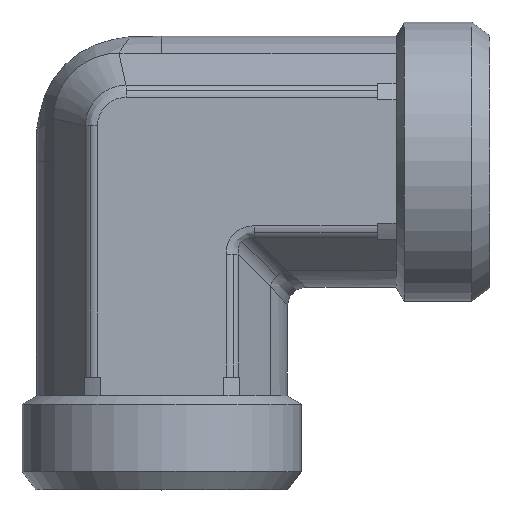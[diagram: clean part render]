
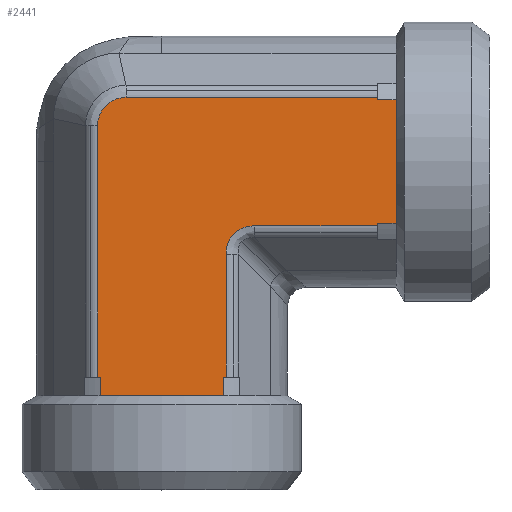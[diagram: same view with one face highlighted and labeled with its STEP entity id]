
A CAD part, top view. The second image highlights one B-rep face of the part: STEP entity #2441.
In plain terms, the highlighted planar face has unit normal (0, 0, 1) as drawn and (0, -1, 0) by its records, which use the part's own axes.
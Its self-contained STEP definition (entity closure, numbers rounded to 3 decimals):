
#361=CARTESIAN_POINT('',(5.387,-13.375,6.856));
#362=VERTEX_POINT('',#361);
#370=CARTESIAN_POINT('',(18.5,-13.375,6.856));
#371=VERTEX_POINT('',#370);
#372=CARTESIAN_POINT('',(5.387,-13.375,6.856));
#373=DIRECTION('',(1.0,0.0,0.0));
#374=VECTOR('',#373,13.113);
#375=LINE('',#372,#374);
#376=EDGE_CURVE('',#362,#371,#375,.T.);
#485=CARTESIAN_POINT('',(-11.356,-13.375,-3.819));
#486=VERTEX_POINT('',#485);
#494=CARTESIAN_POINT('',(-11.356,-13.375,23.));
#495=VERTEX_POINT('',#494);
#496=CARTESIAN_POINT('',(-11.356,-13.375,-3.819));
#497=DIRECTION('',(0.0,0.0,1.0));
#498=VECTOR('',#497,26.819);
#499=LINE('',#496,#498);
#500=EDGE_CURVE('',#486,#495,#499,.T.);
#692=CARTESIAN_POINT('',(20.5,-13.375,0.));
#693=VERTEX_POINT('',#692);
#1887=CARTESIAN_POINT('',(2.356,-13.375,23.));
#1888=VERTEX_POINT('',#1887);
#1889=CARTESIAN_POINT('',(2.089,-13.375,23.));
#1890=VERTEX_POINT('',#1889);
#1891=CARTESIAN_POINT('',(2.356,-13.375,23.));
#1892=DIRECTION('',(-1.0,0.0,0.0));
#1893=VECTOR('',#1892,0.267);
#1894=LINE('',#1891,#1893);
#1895=EDGE_CURVE('',#1888,#1890,#1894,.T.);
#1946=CARTESIAN_POINT('',(-11.089,-13.375,23.));
#1947=VERTEX_POINT('',#1946);
#1948=CARTESIAN_POINT('',(-11.089,-13.375,23.));
#1949=DIRECTION('',(-1.0,0.0,0.0));
#1950=VECTOR('',#1949,0.267);
#1951=LINE('',#1948,#1950);
#1952=EDGE_CURVE('',#1947,#495,#1951,.T.);
#2010=CARTESIAN_POINT('',(-11.089,-13.375,25.0));
#2011=VERTEX_POINT('',#2010);
#2012=CARTESIAN_POINT('',(-11.089,-13.375,25.0));
#2013=DIRECTION('',(0.0,0.0,-1.0));
#2014=VECTOR('',#2013,2.);
#2015=LINE('',#2012,#2014);
#2016=EDGE_CURVE('',#2011,#1947,#2015,.T.);
#2033=CARTESIAN_POINT('',(2.089,-13.375,25.0));
#2034=VERTEX_POINT('',#2033);
#2035=CARTESIAN_POINT('',(2.089,-13.375,23.));
#2036=DIRECTION('',(0.0,0.0,1.0));
#2037=VECTOR('',#2036,2.);
#2038=LINE('',#2035,#2037);
#2039=EDGE_CURVE('',#1890,#2034,#2038,.T.);
#2315=CARTESIAN_POINT('',(-4.5,-13.375,25.0));
#2316=VERTEX_POINT('',#2315);
#2317=CARTESIAN_POINT('',(-4.5,-13.375,25.0));
#2318=DIRECTION('',(-1.0,0.0,0.0));
#2319=VECTOR('',#2318,6.589);
#2320=LINE('',#2317,#2319);
#2321=EDGE_CURVE('',#2316,#2011,#2320,.T.);
#2339=CARTESIAN_POINT('',(-4.5,-13.375,-3.175));
#2340=DIRECTION('',(0.0,-1.0,0.0));
#2341=DIRECTION('',(0.0,0.0,-1.0));
#2342=AXIS2_PLACEMENT_3D('',#2339,#2340,#2341);
#2343=PLANE('',#2342);
#2344=ORIENTED_EDGE('',*,*,#2016,.T.);
#2345=ORIENTED_EDGE('',*,*,#1952,.T.);
#2346=ORIENTED_EDGE('',*,*,#500,.F.);
#2347=CARTESIAN_POINT('',(-8.319,-13.375,-6.856));
#2348=VERTEX_POINT('',#2347);
#2349=CARTESIAN_POINT('',(-11.356,-13.375,-3.819));
#2350=CARTESIAN_POINT('',(-11.356,-13.375,-4.016));
#2351=CARTESIAN_POINT('',(-11.336,-13.375,-4.216));
#2352=CARTESIAN_POINT('',(-11.235,-13.375,-4.725));
#2353=CARTESIAN_POINT('',(-11.123,-13.375,-5.025));
#2354=CARTESIAN_POINT('',(-10.717,-13.375,-5.748));
#2355=CARTESIAN_POINT('',(-10.355,-13.375,-6.127));
#2356=CARTESIAN_POINT('',(-9.441,-13.375,-6.697));
#2357=CARTESIAN_POINT('',(-8.88,-13.375,-6.856));
#2358=CARTESIAN_POINT('',(-8.319,-13.375,-6.856));
#2359=B_SPLINE_CURVE_WITH_KNOTS('',3,(#2349,#2350,#2351,#2352,#2353,#2354,#2355,#2356,#2357,#2358),.UNSPECIFIED.,.F.,.U.,(4,2,2,2,4),(-4.746,-4.152,-3.203,-1.685,0.0),.UNSPECIFIED.);
#2360=EDGE_CURVE('',#2348,#486,#2359,.F.);
#2361=ORIENTED_EDGE('',*,*,#2360,.F.);
#2362=CARTESIAN_POINT('',(18.5,-13.375,-6.856));
#2363=VERTEX_POINT('',#2362);
#2364=CARTESIAN_POINT('',(18.5,-13.375,-6.856));
#2365=DIRECTION('',(-1.0,0.0,0.0));
#2366=VECTOR('',#2365,26.819);
#2367=LINE('',#2364,#2366);
#2368=EDGE_CURVE('',#2363,#2348,#2367,.T.);
#2369=ORIENTED_EDGE('',*,*,#2368,.F.);
#2370=CARTESIAN_POINT('',(18.5,-13.375,-6.589));
#2371=VERTEX_POINT('',#2370);
#2372=CARTESIAN_POINT('',(18.5,-13.375,-6.856));
#2373=DIRECTION('',(0.0,0.0,1.0));
#2374=VECTOR('',#2373,0.267);
#2375=LINE('',#2372,#2374);
#2376=EDGE_CURVE('',#2363,#2371,#2375,.T.);
#2377=ORIENTED_EDGE('',*,*,#2376,.T.);
#2378=CARTESIAN_POINT('',(20.5,-13.375,-6.589));
#2379=VERTEX_POINT('',#2378);
#2380=CARTESIAN_POINT('',(18.5,-13.375,-6.589));
#2381=DIRECTION('',(1.0,0.0,0.0));
#2382=VECTOR('',#2381,2.);
#2383=LINE('',#2380,#2382);
#2384=EDGE_CURVE('',#2371,#2379,#2383,.T.);
#2385=ORIENTED_EDGE('',*,*,#2384,.T.);
#2386=CARTESIAN_POINT('',(20.5,-13.375,-6.589));
#2387=DIRECTION('',(0.0,0.0,1.0));
#2388=VECTOR('',#2387,6.589);
#2389=LINE('',#2386,#2388);
#2390=EDGE_CURVE('',#2379,#693,#2389,.T.);
#2391=ORIENTED_EDGE('',*,*,#2390,.T.);
#2392=CARTESIAN_POINT('',(20.5,-13.375,6.589));
#2393=VERTEX_POINT('',#2392);
#2394=CARTESIAN_POINT('',(20.5,-13.375,0.));
#2395=DIRECTION('',(0.0,0.0,1.0));
#2396=VECTOR('',#2395,6.589);
#2397=LINE('',#2394,#2396);
#2398=EDGE_CURVE('',#693,#2393,#2397,.T.);
#2399=ORIENTED_EDGE('',*,*,#2398,.T.);
#2400=CARTESIAN_POINT('',(18.5,-13.375,6.589));
#2401=VERTEX_POINT('',#2400);
#2402=CARTESIAN_POINT('',(20.5,-13.375,6.589));
#2403=DIRECTION('',(-1.0,0.0,0.0));
#2404=VECTOR('',#2403,2.);
#2405=LINE('',#2402,#2404);
#2406=EDGE_CURVE('',#2393,#2401,#2405,.T.);
#2407=ORIENTED_EDGE('',*,*,#2406,.T.);
#2408=CARTESIAN_POINT('',(18.5,-13.375,6.589));
#2409=DIRECTION('',(0.0,0.0,1.0));
#2410=VECTOR('',#2409,0.267);
#2411=LINE('',#2408,#2410);
#2412=EDGE_CURVE('',#2401,#371,#2411,.T.);
#2413=ORIENTED_EDGE('',*,*,#2412,.T.);
#2414=ORIENTED_EDGE('',*,*,#376,.F.);
#2415=CARTESIAN_POINT('',(2.356,-13.375,9.887));
#2416=VERTEX_POINT('',#2415);
#2417=CARTESIAN_POINT('',(6.397,-13.375,10.897));
#2418=DIRECTION('',(0.,-1.0,0.));
#2419=DIRECTION('',(-0.707,0.,-0.707));
#2420=AXIS2_PLACEMENT_3D('',#2417,#2418,#2419);
#2421=ELLIPSE('',#2420,4.518,3.5);
#2422=EDGE_CURVE('',#2416,#362,#2421,.T.);
#2423=ORIENTED_EDGE('',*,*,#2422,.F.);
#2424=CARTESIAN_POINT('',(2.356,-13.375,23.));
#2425=DIRECTION('',(0.0,0.0,-1.0));
#2426=VECTOR('',#2425,13.113);
#2427=LINE('',#2424,#2426);
#2428=EDGE_CURVE('',#1888,#2416,#2427,.T.);
#2429=ORIENTED_EDGE('',*,*,#2428,.F.);
#2430=ORIENTED_EDGE('',*,*,#1895,.T.);
#2431=ORIENTED_EDGE('',*,*,#2039,.T.);
#2432=CARTESIAN_POINT('',(2.089,-13.375,25.0));
#2433=DIRECTION('',(-1.0,0.0,0.0));
#2434=VECTOR('',#2433,6.589);
#2435=LINE('',#2432,#2434);
#2436=EDGE_CURVE('',#2034,#2316,#2435,.T.);
#2437=ORIENTED_EDGE('',*,*,#2436,.T.);
#2438=ORIENTED_EDGE('',*,*,#2321,.T.);
#2439=EDGE_LOOP('',(#2344,#2345,#2346,#2361,#2369,#2377,#2385,#2391,#2399,#2407,#2413,#2414,#2423,#2429,#2430,#2431,#2437,#2438));
#2440=FACE_OUTER_BOUND('',#2439,.T.);
#2441=ADVANCED_FACE('',(#2440),#2343,.T.);
